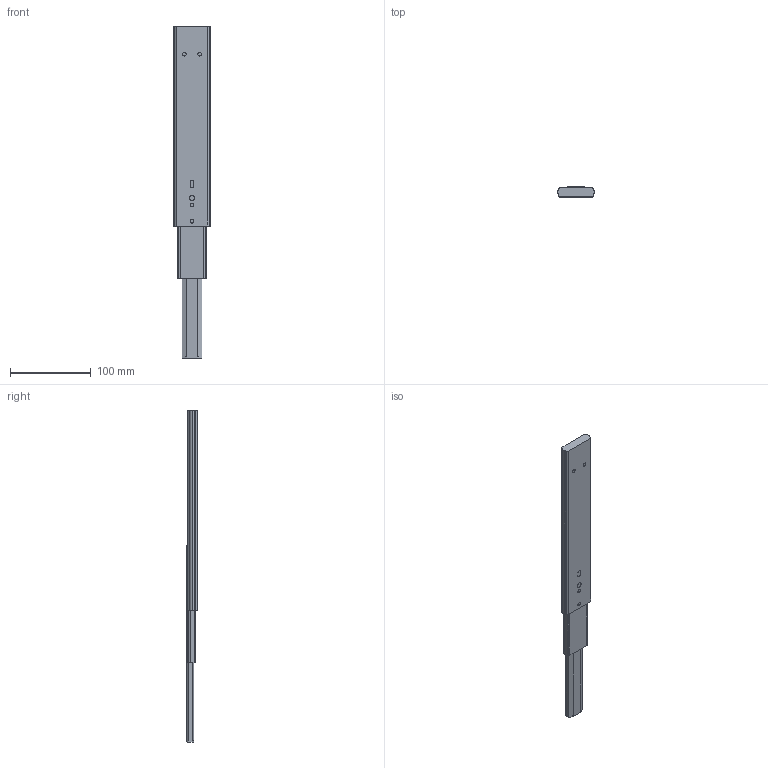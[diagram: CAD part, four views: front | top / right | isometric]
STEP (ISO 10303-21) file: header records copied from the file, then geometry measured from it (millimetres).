
FILE_DESCRIPTION (( 'STEP AP203' ), '1' );
FILE_NAME ('4587110H(嶺).STEP', '2020-02-13T08:58:11', ( 'ZZG' ), ( 'Microsoft' ), 'SwSTEP 2.0', 'SolidWorks 2012', '' );
FILE_SCHEMA (( 'CONFIG_CONTROL_DESIGN' ));
Length unit declared in the file: millimetre
Products named in the file (1): 4587110H(嶺)
Bounding box: 45.57 x 12.7 x 411.5 mm (x, y, z)
Volume: 166751.4 mm3; surface area: 38973.3 mm2
Topology: 1 solids, 1 shells, 188 faces, 526 edges, 351 vertices
Faces by surface type: cylinder 88, plane 88, cone 6, bspline 6
Entity records: 6366 total; most frequent: CARTESIAN_POINT 1309, DIRECTION 1065, ORIENTED_EDGE 1052, EDGE_CURVE 526, AXIS2_PLACEMENT_3D 379, VERTEX_POINT 351, VECTOR 307, LINE 307
